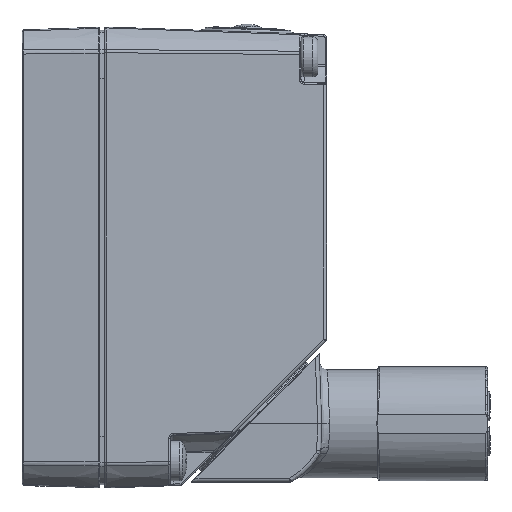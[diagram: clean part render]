
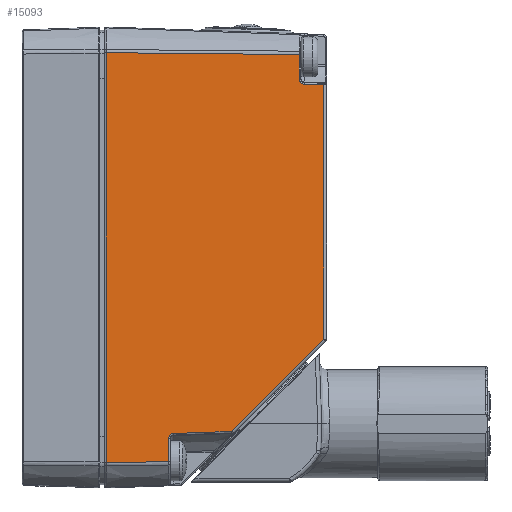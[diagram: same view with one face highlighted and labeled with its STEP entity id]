
A CAD part, left-side view. The second image highlights one B-rep face of the part: STEP entity #15093.
In plain terms, the highlighted planar face has unit normal (-0.999, -0.035, 0).
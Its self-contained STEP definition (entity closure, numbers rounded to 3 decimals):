
#607=ELLIPSE('',#53724,0.6,0.6);
#608=ELLIPSE('',#53725,0.6,0.6);
#2669=B_SPLINE_CURVE_WITH_KNOTS('',3,(#93104,#93105,#93106,#93107,#93108,
#93109,#93110),.UNSPECIFIED.,.F.,.F.,(4,3,4),(0.,0.502,1.),
 .UNSPECIFIED.);
#2670=B_SPLINE_CURVE_WITH_KNOTS('',3,(#93115,#93116,#93117,#93118,#93119,
#93120,#93121),.UNSPECIFIED.,.F.,.F.,(4,3,4),(0.,0.493,1.),
 .UNSPECIFIED.);
#5508=LINE('',#93113,#8523);
#5509=LINE('',#93123,#8524);
#5510=LINE('',#93127,#8525);
#5511=LINE('',#93129,#8526);
#5512=LINE('',#93131,#8527);
#5513=LINE('',#93133,#8528);
#5514=LINE('',#93137,#8529);
#8523=VECTOR('',#66186,1.);
#8524=VECTOR('',#66187,1.);
#8525=VECTOR('',#66190,1.);
#8526=VECTOR('',#66191,1.);
#8527=VECTOR('',#66192,1.);
#8528=VECTOR('',#66193,1.);
#8529=VECTOR('',#66196,1.);
#9890=PLANE('',#53726);
#12094=FACE_OUTER_BOUND('',#20263,.T.);
#15093=ADVANCED_FACE('',(#12094),#9890,.F.);
#20263=EDGE_LOOP('',(#32162,#32163,#32164,#32165,#32166,#32167,#32168,#32169,
#32170,#32171,#32172));
#32162=ORIENTED_EDGE('',*,*,#45438,.T.);
#32163=ORIENTED_EDGE('',*,*,#45439,.T.);
#32164=ORIENTED_EDGE('',*,*,#45440,.T.);
#32165=ORIENTED_EDGE('',*,*,#45441,.T.);
#32166=ORIENTED_EDGE('',*,*,#45442,.T.);
#32167=ORIENTED_EDGE('',*,*,#45443,.T.);
#32168=ORIENTED_EDGE('',*,*,#45444,.T.);
#32169=ORIENTED_EDGE('',*,*,#45445,.T.);
#32170=ORIENTED_EDGE('',*,*,#45446,.T.);
#32171=ORIENTED_EDGE('',*,*,#45447,.T.);
#32172=ORIENTED_EDGE('',*,*,#45448,.T.);
#38967=VERTEX_POINT('',#93111);
#38968=VERTEX_POINT('',#93112);
#38969=VERTEX_POINT('',#93114);
#38970=VERTEX_POINT('',#93122);
#38971=VERTEX_POINT('',#93124);
#38972=VERTEX_POINT('',#93126);
#38973=VERTEX_POINT('',#93128);
#38974=VERTEX_POINT('',#93130);
#38975=VERTEX_POINT('',#93132);
#38976=VERTEX_POINT('',#93134);
#38977=VERTEX_POINT('',#93136);
#45438=EDGE_CURVE('',#38967,#38968,#2669,.T.);
#45439=EDGE_CURVE('',#38968,#38969,#5508,.T.);
#45440=EDGE_CURVE('',#38969,#38970,#2670,.T.);
#45441=EDGE_CURVE('',#38970,#38971,#5509,.T.);
#45442=EDGE_CURVE('',#38971,#38972,#607,.T.);
#45443=EDGE_CURVE('',#38972,#38973,#5510,.T.);
#45444=EDGE_CURVE('',#38973,#38974,#5511,.T.);
#45445=EDGE_CURVE('',#38974,#38975,#5512,.T.);
#45446=EDGE_CURVE('',#38975,#38976,#5513,.T.);
#45447=EDGE_CURVE('',#38976,#38977,#608,.T.);
#45448=EDGE_CURVE('',#38977,#38967,#5514,.T.);
#53724=AXIS2_PLACEMENT_3D('',#93125,#66188,#66189);
#53725=AXIS2_PLACEMENT_3D('',#93135,#66194,#66195);
#53726=AXIS2_PLACEMENT_3D('',#93138,#66197,#66198);
#66186=DIRECTION('',(0.,0.,-1.));
#66187=DIRECTION('',(0.,0.,1.));
#66188=DIRECTION('',(0.999,0.035,0.));
#66189=DIRECTION('',(-0.035,0.999,0.));
#66190=DIRECTION('',(0.035,-0.999,0.035));
#66191=DIRECTION('',(0.025,-0.707,0.707));
#66192=DIRECTION('',(0.,0.,1.));
#66193=DIRECTION('',(-0.035,0.999,0.035));
#66194=DIRECTION('',(0.999,0.035,0.));
#66195=DIRECTION('',(0.035,-0.999,0.));
#66196=DIRECTION('',(0.,0.,1.));
#66197=DIRECTION('',(0.999,0.035,0.));
#66198=DIRECTION('',(-0.035,0.999,0.));
#93104=CARTESIAN_POINT('',(-3.241,2.399,59.915));
#93105=CARTESIAN_POINT('',(-3.382,6.433,59.955));
#93106=CARTESIAN_POINT('',(-3.523,10.467,59.994));
#93107=CARTESIAN_POINT('',(-3.664,14.501,60.033));
#93108=CARTESIAN_POINT('',(-3.803,18.5,60.071));
#93109=CARTESIAN_POINT('',(-3.943,22.5,60.108));
#93110=CARTESIAN_POINT('',(-4.083,26.499,60.145));
#93111=CARTESIAN_POINT('',(-3.241,2.399,59.915));
#93112=CARTESIAN_POINT('',(-4.083,26.499,60.145));
#93113=CARTESIAN_POINT('',(-4.083,26.499,9.041));
#93114=CARTESIAN_POINT('',(-4.083,26.499,9.043));
#93115=CARTESIAN_POINT('',(-4.083,26.499,9.043));
#93116=CARTESIAN_POINT('',(-4.038,25.216,9.055));
#93117=CARTESIAN_POINT('',(-3.993,23.933,9.067));
#93118=CARTESIAN_POINT('',(-3.948,22.651,9.079));
#93119=CARTESIAN_POINT('',(-3.902,21.333,9.091));
#93120=CARTESIAN_POINT('',(-3.856,20.016,9.103));
#93121=CARTESIAN_POINT('',(-3.81,18.699,9.116));
#93122=CARTESIAN_POINT('',(-3.81,18.699,9.116));
#93123=CARTESIAN_POINT('',(-3.81,18.699,12.048));
#93124=CARTESIAN_POINT('',(-3.81,18.699,12.048));
#93125=CARTESIAN_POINT('',(-3.789,18.099,12.048));
#93126=CARTESIAN_POINT('',(-3.79,18.12,12.648));
#93127=CARTESIAN_POINT('',(-3.21,1.516,13.228));
#93128=CARTESIAN_POINT('',(-3.539,10.917,12.9));
#93129=CARTESIAN_POINT('',(-3.132,-0.719,24.535));
#93130=CARTESIAN_POINT('',(-3.136,-0.608,24.424));
#93131=CARTESIAN_POINT('',(-3.136,-0.608,-2.5));
#93132=CARTESIAN_POINT('',(-3.136,-0.608,56.135));
#93133=CARTESIAN_POINT('',(-3.121,-1.055,56.119));
#93134=CARTESIAN_POINT('',(-3.221,1.82,56.22));
#93135=CARTESIAN_POINT('',(-3.22,1.799,56.82));
#93136=CARTESIAN_POINT('',(-3.241,2.399,56.82));
#93137=CARTESIAN_POINT('',(-3.241,2.399,59.913));
#93138=CARTESIAN_POINT('',(-3.191,0.967,-2.5));
